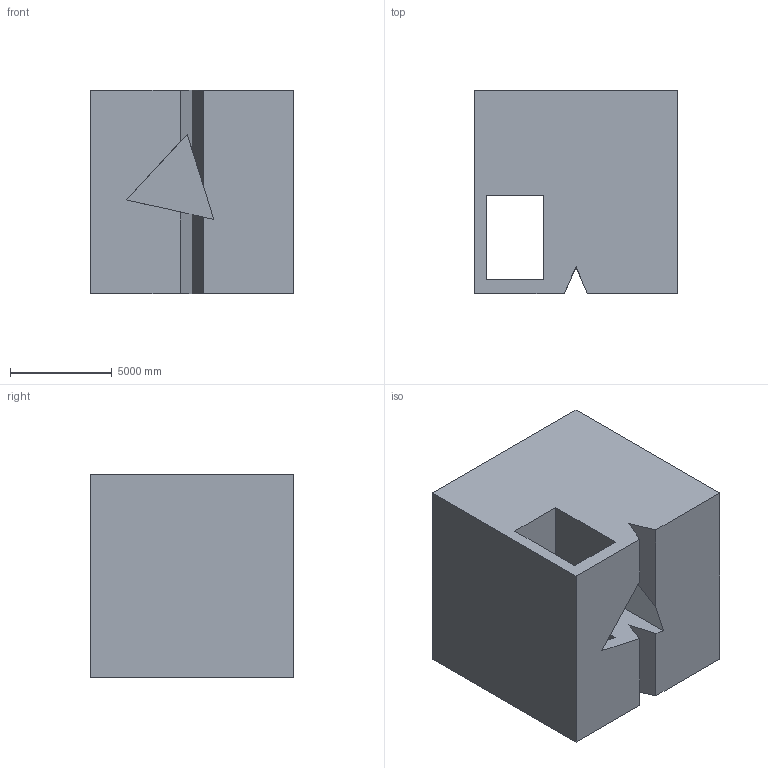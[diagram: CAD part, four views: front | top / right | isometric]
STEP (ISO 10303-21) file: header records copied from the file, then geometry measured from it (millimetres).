
FILE_DESCRIPTION (( 'STEP AP203' ), '1' );
FILE_NAME ('1388.STEP', '2022-08-18T14:11:15', ( 'user' ), ( '' ), 'SwSTEP 2.0', 'SolidWorks 2021', '' );
FILE_SCHEMA (( 'CONFIG_CONTROL_DESIGN' ));
Length unit declared in the file: centimetre
Products named in the file (1): 1388
Bounding box: 10000 x 10000 x 10000 mm (x, y, z)
Volume: 808313657802.3 mm3; surface area: 828429700 mm2
Topology: 1 solids, 1 shells, 26 faces, 72 edges, 48 vertices
Faces by surface type: plane 22, cylinder 4
Entity records: 909 total; most frequent: CARTESIAN_POINT 147, ORIENTED_EDGE 144, DIRECTION 134, EDGE_CURVE 72, VECTOR 64, LINE 64, VERTEX_POINT 48, AXIS2_PLACEMENT_3D 35
